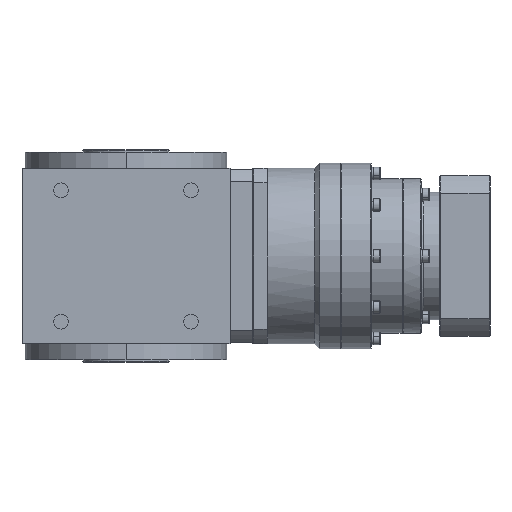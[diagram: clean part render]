
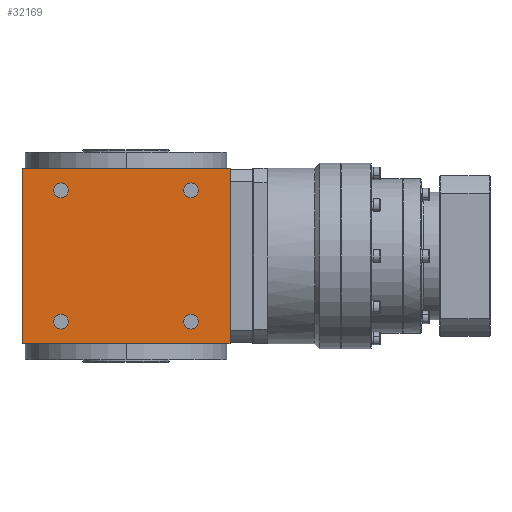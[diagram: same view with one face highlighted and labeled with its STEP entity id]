
A CAD part, left-side view. The second image highlights one B-rep face of the part: STEP entity #32169.
In plain terms, the highlighted planar face has unit normal (-1, 0, 0).
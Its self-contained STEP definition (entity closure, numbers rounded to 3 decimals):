
#11 = DIRECTION ( 'NONE',  ( 0., -1., 0. ) ) ;
#391 = CARTESIAN_POINT ( 'NONE',  ( -84., -52.5, -53. ) ) ;
#478 = ORIENTED_EDGE ( 'NONE', *, *, #41139, .T. ) ;
#2129 = ORIENTED_EDGE ( 'NONE', *, *, #28630, .T. ) ;
#2395 = DIRECTION ( 'NONE',  ( 0., -1., 0. ) ) ;
#2478 = CARTESIAN_POINT ( 'NONE',  ( -84., -46.5, -53. ) ) ;
#2847 = VERTEX_POINT ( 'NONE', #39031 ) ;
#2892 = EDGE_CURVE ( 'NONE', #22080, #30015, #9244, .T. ) ;
#3146 = CIRCLE ( 'NONE', #21411, 6. ) ;
#3265 = CARTESIAN_POINT ( 'NONE',  ( -84., 46.5, -53. ) ) ;
#3327 = DIRECTION ( 'NONE',  ( -1., 0., 0. ) ) ;
#3578 = FACE_BOUND ( 'NONE', #42245, .T. ) ;
#4022 = FACE_BOUND ( 'NONE', #45104, .T. ) ;
#4123 = VERTEX_POINT ( 'NONE', #39260 ) ;
#4294 = DIRECTION ( 'NONE',  ( 1., 0., 0. ) ) ;
#4362 = CARTESIAN_POINT ( 'NONE',  ( -84., 84., -71. ) ) ;
#5117 = CIRCLE ( 'NONE', #44544, 6. ) ;
#5125 = DIRECTION ( 'NONE',  ( 0., 0., -1. ) ) ;
#5201 = ORIENTED_EDGE ( 'NONE', *, *, #31984, .T. ) ;
#6094 = ORIENTED_EDGE ( 'NONE', *, *, #28114, .T. ) ;
#6763 = CARTESIAN_POINT ( 'NONE',  ( -84., 84., -71. ) ) ;
#7675 = CARTESIAN_POINT ( 'NONE',  ( -84., -52.5, -53. ) ) ;
#7953 = AXIS2_PLACEMENT_3D ( 'NONE', #15843, #12440, #2395 ) ;
#8408 = ORIENTED_EDGE ( 'NONE', *, *, #36137, .F. ) ;
#8873 = CARTESIAN_POINT ( 'NONE',  ( -84., -52.5, 53. ) ) ;
#9244 = CIRCLE ( 'NONE', #34838, 6. ) ;
#9895 = VECTOR ( 'NONE', #11, 1000. ) ;
#9903 = VERTEX_POINT ( 'NONE', #30078 ) ;
#10080 = ORIENTED_EDGE ( 'NONE', *, *, #28705, .T. ) ;
#10203 = EDGE_LOOP ( 'NONE', ( #10080, #29857 ) ) ;
#10339 = DIRECTION ( 'NONE',  ( 0., -1., 0. ) ) ;
#11353 = LINE ( 'NONE', #43391, #25355 ) ;
#11778 = EDGE_CURVE ( 'NONE', #19240, #19893, #35296, .T. ) ;
#12301 = LINE ( 'NONE', #25801, #29226 ) ;
#12440 = DIRECTION ( 'NONE',  ( 1., 0., 0. ) ) ;
#13365 = FACE_OUTER_BOUND ( 'NONE', #30468, .T. ) ;
#14718 = VERTEX_POINT ( 'NONE', #43943 ) ;
#15498 = DIRECTION ( 'NONE',  ( 0., 0., 1. ) ) ;
#15843 = CARTESIAN_POINT ( 'NONE',  ( -84., 52.5, 53. ) ) ;
#16564 = CARTESIAN_POINT ( 'NONE',  ( -84., -52.5, 53. ) ) ;
#16651 = VERTEX_POINT ( 'NONE', #34949 ) ;
#16689 = AXIS2_PLACEMENT_3D ( 'NONE', #8873, #29686, #26691 ) ;
#17263 = DIRECTION ( 'NONE',  ( 1., 0., 0. ) ) ;
#18207 = AXIS2_PLACEMENT_3D ( 'NONE', #42136, #37801, #35280 ) ;
#18866 = DIRECTION ( 'NONE',  ( 1., 0., 0. ) ) ;
#18942 = VERTEX_POINT ( 'NONE', #4362 ) ;
#19107 = EDGE_CURVE ( 'NONE', #18942, #9903, #12301, .T. ) ;
#19240 = VERTEX_POINT ( 'NONE', #2478 ) ;
#19893 = VERTEX_POINT ( 'NONE', #30011 ) ;
#20345 = CARTESIAN_POINT ( 'NONE',  ( -84., 0., -71. ) ) ;
#20477 = FACE_BOUND ( 'NONE', #10203, .T. ) ;
#21378 = FACE_BOUND ( 'NONE', #41981, .T. ) ;
#21411 = AXIS2_PLACEMENT_3D ( 'NONE', #16564, #40612, #44066 ) ;
#22080 = VERTEX_POINT ( 'NONE', #24939 ) ;
#23375 = LINE ( 'NONE', #33448, #37836 ) ;
#23432 = VERTEX_POINT ( 'NONE', #32475 ) ;
#24600 = CARTESIAN_POINT ( 'NONE',  ( -84., 52.5, -53. ) ) ;
#24939 = CARTESIAN_POINT ( 'NONE',  ( -84., 58.5, -53. ) ) ;
#25309 = CIRCLE ( 'NONE', #40667, 6. ) ;
#25355 = VECTOR ( 'NONE', #36075, 1000. ) ;
#25801 = CARTESIAN_POINT ( 'NONE',  ( -84., 84., -71. ) ) ;
#26691 = DIRECTION ( 'NONE',  ( 0., -1., 0. ) ) ;
#27000 = LINE ( 'NONE', #20345, #9895 ) ;
#27335 = PLANE ( 'NONE',  #35299 ) ;
#27966 = CARTESIAN_POINT ( 'NONE',  ( -84., 52.5, 53. ) ) ;
#28114 = EDGE_CURVE ( 'NONE', #16651, #14718, #40106, .T. ) ;
#28178 = DIRECTION ( 'NONE',  ( 1., 0., 0. ) ) ;
#28588 = ORIENTED_EDGE ( 'NONE', *, *, #11778, .T. ) ;
#28630 = EDGE_CURVE ( 'NONE', #30015, #22080, #37955, .T. ) ;
#28705 = EDGE_CURVE ( 'NONE', #34496, #2847, #5117, .T. ) ;
#29226 = VECTOR ( 'NONE', #15498, 1000. ) ;
#29686 = DIRECTION ( 'NONE',  ( 1., 0., 0. ) ) ;
#29857 = ORIENTED_EDGE ( 'NONE', *, *, #42934, .T. ) ;
#30011 = CARTESIAN_POINT ( 'NONE',  ( -84., -58.5, -53. ) ) ;
#30015 = VERTEX_POINT ( 'NONE', #3265 ) ;
#30078 = CARTESIAN_POINT ( 'NONE',  ( -84., 84., 71. ) ) ;
#30468 = EDGE_LOOP ( 'NONE', ( #8408, #36654, #30795, #34660 ) ) ;
#30795 = ORIENTED_EDGE ( 'NONE', *, *, #19107, .F. ) ;
#31648 = AXIS2_PLACEMENT_3D ( 'NONE', #7675, #18866, #32613 ) ;
#31736 = DIRECTION ( 'NONE',  ( 0., -1., 0. ) ) ;
#31984 = EDGE_CURVE ( 'NONE', #14718, #16651, #3146, .T. ) ;
#32169 = ADVANCED_FACE ( 'NONE', ( #21378, #3578, #4022, #20477, #13365 ), #27335, .T. ) ;
#32475 = CARTESIAN_POINT ( 'NONE',  ( -84., -84., 71. ) ) ;
#32613 = DIRECTION ( 'NONE',  ( 0., -1., 0. ) ) ;
#32770 = CIRCLE ( 'NONE', #7953, 6. ) ;
#33448 = CARTESIAN_POINT ( 'NONE',  ( -84., -84., -71. ) ) ;
#34097 = EDGE_CURVE ( 'NONE', #9903, #23432, #11353, .T. ) ;
#34496 = VERTEX_POINT ( 'NONE', #36233 ) ;
#34660 = ORIENTED_EDGE ( 'NONE', *, *, #37876, .T. ) ;
#34838 = AXIS2_PLACEMENT_3D ( 'NONE', #24600, #17263, #39251 ) ;
#34949 = CARTESIAN_POINT ( 'NONE',  ( -84., -46.5, 53. ) ) ;
#35280 = DIRECTION ( 'NONE',  ( 0., -1., 0. ) ) ;
#35296 = CIRCLE ( 'NONE', #31648, 6. ) ;
#35299 = AXIS2_PLACEMENT_3D ( 'NONE', #6763, #3327, #38326 ) ;
#36075 = DIRECTION ( 'NONE',  ( 0., -1., 0. ) ) ;
#36137 = EDGE_CURVE ( 'NONE', #23432, #4123, #23375, .T. ) ;
#36233 = CARTESIAN_POINT ( 'NONE',  ( -84., 46.5, 53. ) ) ;
#36654 = ORIENTED_EDGE ( 'NONE', *, *, #34097, .F. ) ;
#37801 = DIRECTION ( 'NONE',  ( 1., 0., 0. ) ) ;
#37836 = VECTOR ( 'NONE', #5125, 1000. ) ;
#37876 = EDGE_CURVE ( 'NONE', #18942, #4123, #27000, .T. ) ;
#37955 = CIRCLE ( 'NONE', #18207, 6. ) ;
#38326 = DIRECTION ( 'NONE',  ( 0., -1., 0. ) ) ;
#39031 = CARTESIAN_POINT ( 'NONE',  ( -84., 58.5, 53. ) ) ;
#39251 = DIRECTION ( 'NONE',  ( 0., -1., 0. ) ) ;
#39260 = CARTESIAN_POINT ( 'NONE',  ( -84., -84., -71. ) ) ;
#40106 = CIRCLE ( 'NONE', #16689, 6. ) ;
#40612 = DIRECTION ( 'NONE',  ( 1., 0., 0. ) ) ;
#40667 = AXIS2_PLACEMENT_3D ( 'NONE', #391, #4294, #31736 ) ;
#41139 = EDGE_CURVE ( 'NONE', #19893, #19240, #25309, .T. ) ;
#41981 = EDGE_LOOP ( 'NONE', ( #2129, #44052 ) ) ;
#42136 = CARTESIAN_POINT ( 'NONE',  ( -84., 52.5, -53. ) ) ;
#42245 = EDGE_LOOP ( 'NONE', ( #478, #28588 ) ) ;
#42934 = EDGE_CURVE ( 'NONE', #2847, #34496, #32770, .T. ) ;
#43391 = CARTESIAN_POINT ( 'NONE',  ( -84., 0., 71. ) ) ;
#43943 = CARTESIAN_POINT ( 'NONE',  ( -84., -58.5, 53. ) ) ;
#44052 = ORIENTED_EDGE ( 'NONE', *, *, #2892, .T. ) ;
#44066 = DIRECTION ( 'NONE',  ( 0., -1., 0. ) ) ;
#44544 = AXIS2_PLACEMENT_3D ( 'NONE', #27966, #28178, #10339 ) ;
#45104 = EDGE_LOOP ( 'NONE', ( #5201, #6094 ) ) ;
